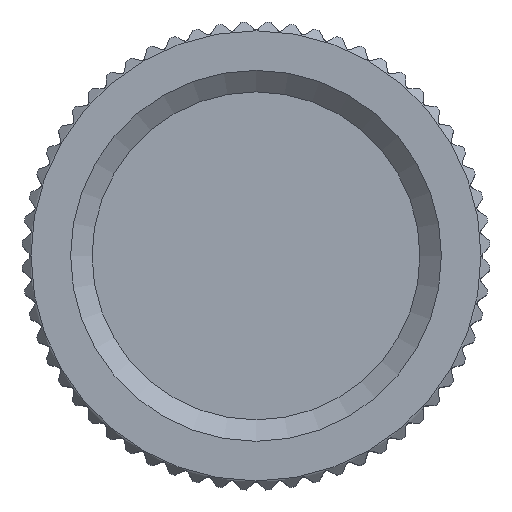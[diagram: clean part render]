
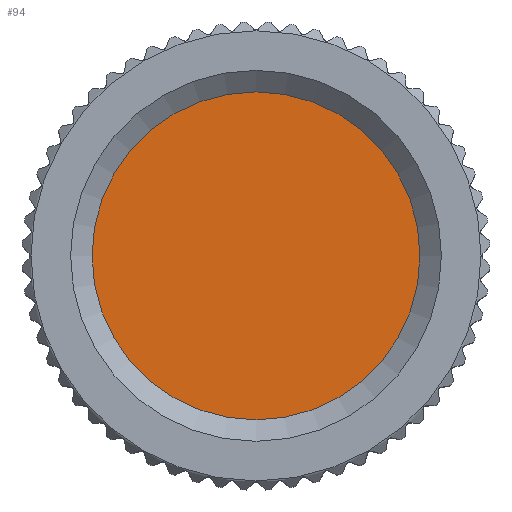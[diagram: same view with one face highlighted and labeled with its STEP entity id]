
A CAD part, top view. The second image highlights one B-rep face of the part: STEP entity #94.
In plain terms, the highlighted planar face has unit normal (0, 0, 1).
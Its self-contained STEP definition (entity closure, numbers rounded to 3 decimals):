
#60=CARTESIAN_POINT('',(9.108,0.,12.3));
#61=VERTEX_POINT('',#60);
#68=CARTESIAN_POINT('',(0.,0.,12.3));
#69=DIRECTION('',(1.,0.,0.));
#70=DIRECTION('',(0.,0.,1.));
#71=AXIS2_PLACEMENT_3D('',#68,#70,#69);
#72=CIRCLE('',#71,9.108);
#73=EDGE_CURVE('',#61,#61,#72,.T.);
#86=CARTESIAN_POINT('',(0.,0.,12.3));
#87=DIRECTION('',(1.,0.,0.));
#88=DIRECTION('',(0.,0.,-1.));
#89=AXIS2_PLACEMENT_3D('',#86,#88,#87);
#90=PLANE('',#89);
#91=ORIENTED_EDGE('',*,*,#73,.F.);
#92=EDGE_LOOP('',(#91));
#93=FACE_OUTER_BOUND('',#92,.F.);
#94=ADVANCED_FACE('F7',(#93),#90,.F.);
